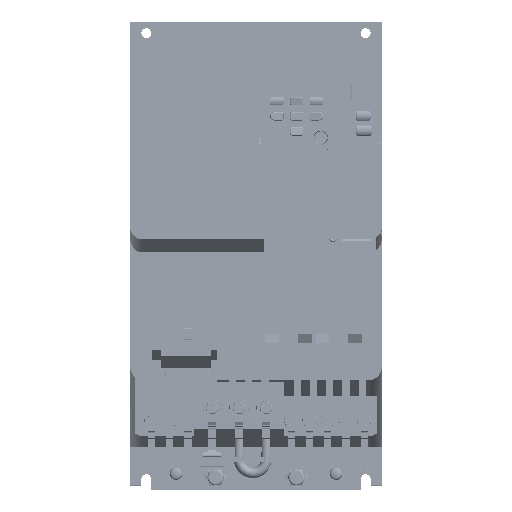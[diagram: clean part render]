
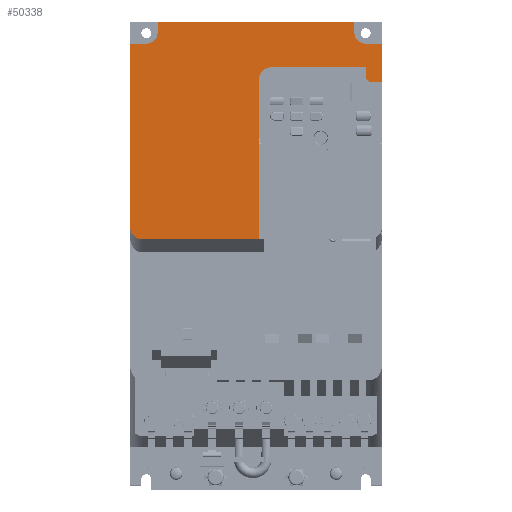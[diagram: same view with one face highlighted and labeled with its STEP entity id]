
A CAD part, top view. The second image highlights one B-rep face of the part: STEP entity #50338.
In plain terms, the highlighted planar face has unit normal (0, 0, 1).
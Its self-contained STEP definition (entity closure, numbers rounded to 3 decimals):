
#3899=CARTESIAN_POINT('',(-63.,146.1,145.));
#3900=DIRECTION('',(0.,0.,1.));
#3901=DIRECTION('',(-1.,0.,0.));
#3902=AXIS2_PLACEMENT_3D('',#3899,#3900,#3901);
#3904=DIRECTION('',(0.,-1.,0.));
#3905=VECTOR('',#3904,101.9);
#3906=CARTESIAN_POINT('',(-70.,248.,145.));
#3907=LINE('',#3906,#3905);
#3908=DIRECTION('',(1.,0.,0.));
#3909=VECTOR('',#3908,9.306);
#3910=CARTESIAN_POINT('',(-70.,248.,145.));
#3911=LINE('',#3910,#3909);
#3912=DIRECTION('',(-0.052,-0.999,0.));
#3913=VECTOR('',#3912,6.323);
#3914=CARTESIAN_POINT('',(-54.371,260.,145.));
#3915=LINE('',#3914,#3913);
#3916=DIRECTION('',(-1.,0.,0.));
#3917=VECTOR('',#3916,108.742);
#3918=CARTESIAN_POINT('',(54.371,260.,145.));
#3919=LINE('',#3918,#3917);
#3920=DIRECTION('',(0.052,-0.999,0.));
#3921=VECTOR('',#3920,6.323);
#3922=CARTESIAN_POINT('',(54.371,260.,145.));
#3923=LINE('',#3922,#3921);
#3924=DIRECTION('',(-1.,0.,0.));
#3925=VECTOR('',#3924,9.306);
#3926=CARTESIAN_POINT('',(70.,248.,145.));
#3927=LINE('',#3926,#3925);
#3928=DIRECTION('',(0.,1.,0.));
#3929=VECTOR('',#3928,21.568);
#3930=CARTESIAN_POINT('',(70.,226.432,145.));
#3931=LINE('',#3930,#3929);
#3932=DIRECTION('',(-0.999,0.052,0.));
#3933=VECTOR('',#3932,6.152);
#3934=CARTESIAN_POINT('',(70.,226.432,145.));
#3935=LINE('',#3934,#3933);
#3936=CARTESIAN_POINT('',(64.,229.5,145.));
#3937=DIRECTION('',(0.,0.,1.));
#3938=DIRECTION('',(-1.,0.,0.));
#3939=AXIS2_PLACEMENT_3D('',#3936,#3937,#3938);
#3941=DIRECTION('',(0.,1.,0.));
#3942=VECTOR('',#3941,5.5);
#3943=CARTESIAN_POINT('',(61.25,229.5,145.));
#3944=LINE('',#3943,#3942);
#3945=DIRECTION('',(-1.,0.,0.));
#3946=VECTOR('',#3945,52.25);
#3947=CARTESIAN_POINT('',(61.25,235.,145.));
#3948=LINE('',#3947,#3946);
#3949=DIRECTION('',(0.,1.,0.));
#3950=VECTOR('',#3949,88.4);
#3951=CARTESIAN_POINT('',(1.5,139.1,145.));
#3952=LINE('',#3951,#3950);
#3953=DIRECTION('',(1.,0.,0.));
#3954=VECTOR('',#3953,64.5);
#3955=CARTESIAN_POINT('',(-63.,139.1,145.));
#3956=LINE('',#3955,#3954);
#11357=CARTESIAN_POINT('',(60.694,254.,145.));
#11358=DIRECTION('',(0.,0.,-1.));
#11359=DIRECTION('',(0.,-1.,0.));
#11360=AXIS2_PLACEMENT_3D('',#11357,#11358,#11359);
#13346=CARTESIAN_POINT('',(-60.694,254.,145.));
#13347=DIRECTION('',(0.,0.,-1.));
#13348=DIRECTION('',(0.999,-0.052,0.));
#13349=AXIS2_PLACEMENT_3D('',#13346,#13347,#13348);
#21485=CARTESIAN_POINT('',(9.,227.5,145.));
#21486=DIRECTION('',(0.,0.,-1.));
#21487=DIRECTION('',(-1.,0.,0.));
#21488=AXIS2_PLACEMENT_3D('',#21485,#21486,#21487);
#35683=CARTESIAN_POINT('',(54.371,260.,145.));
#35684=CARTESIAN_POINT('',(-54.371,260.,145.));
#35685=VERTEX_POINT('',#35683);
#35686=VERTEX_POINT('',#35684);
#35687=CARTESIAN_POINT('',(54.702,253.686,145.));
#35688=VERTEX_POINT('',#35687);
#35689=CARTESIAN_POINT('',(70.,248.,145.));
#35690=CARTESIAN_POINT('',(60.694,248.,145.));
#35691=VERTEX_POINT('',#35689);
#35692=VERTEX_POINT('',#35690);
#35693=CARTESIAN_POINT('',(-70.,248.,145.));
#35694=CARTESIAN_POINT('',(-60.694,248.,145.));
#35695=VERTEX_POINT('',#35693);
#35696=VERTEX_POINT('',#35694);
#35697=CARTESIAN_POINT('',(-54.702,253.686,145.));
#35698=VERTEX_POINT('',#35697);
#35707=CARTESIAN_POINT('',(1.5,139.1,145.));
#35709=VERTEX_POINT('',#35707);
#35711=CARTESIAN_POINT('',(70.,226.432,145.));
#35712=VERTEX_POINT('',#35711);
#35715=CARTESIAN_POINT('',(61.25,235.,145.));
#35717=VERTEX_POINT('',#35715);
#35748=CARTESIAN_POINT('',(9.,235.,145.));
#35750=VERTEX_POINT('',#35748);
#35753=CARTESIAN_POINT('',(1.5,227.5,145.));
#35754=VERTEX_POINT('',#35753);
#35755=CARTESIAN_POINT('',(61.25,229.5,145.));
#35756=CARTESIAN_POINT('',(63.856,226.754,145.));
#35757=VERTEX_POINT('',#35755);
#35758=VERTEX_POINT('',#35756);
#43802=CARTESIAN_POINT('',(-70.,146.1,145.));
#43803=CARTESIAN_POINT('',(-63.,139.1,145.));
#43804=VERTEX_POINT('',#43802);
#43805=VERTEX_POINT('',#43803);
#50300=CARTESIAN_POINT('',(0.,130.,145.));
#50301=DIRECTION('',(0.,0.,1.));
#50302=DIRECTION('',(1.,0.,0.));
#50303=AXIS2_PLACEMENT_3D('',#50300,#50301,#50302);
#50304=PLANE('',#50303);
#50305=ORIENTED_EDGE('',*,*,#50284,.F.);
#50306=ORIENTED_EDGE('',*,*,#49612,.F.);
#50308=ORIENTED_EDGE('',*,*,#50307,.T.);
#50310=ORIENTED_EDGE('',*,*,#50309,.F.);
#50312=ORIENTED_EDGE('',*,*,#50311,.F.);
#50314=ORIENTED_EDGE('',*,*,#50313,.F.);
#50316=ORIENTED_EDGE('',*,*,#50315,.T.);
#50318=ORIENTED_EDGE('',*,*,#50317,.F.);
#50320=ORIENTED_EDGE('',*,*,#50319,.F.);
#50321=ORIENTED_EDGE('',*,*,#47729,.F.);
#50323=ORIENTED_EDGE('',*,*,#50322,.T.);
#50325=ORIENTED_EDGE('',*,*,#50324,.F.);
#50327=ORIENTED_EDGE('',*,*,#50326,.T.);
#50329=ORIENTED_EDGE('',*,*,#50328,.T.);
#50331=ORIENTED_EDGE('',*,*,#50330,.F.);
#50333=ORIENTED_EDGE('',*,*,#50332,.F.);
#50335=ORIENTED_EDGE('',*,*,#50334,.F.);
#50336=EDGE_LOOP('',(#50305,#50306,#50308,#50310,#50312,#50314,#50316,#50318,
#50320,#50321,#50323,#50325,#50327,#50329,#50331,#50333,#50335));
#50337=FACE_OUTER_BOUND('',#50336,.F.);
#3903=CIRCLE('',#3902,7.);
#3940=CIRCLE('',#3939,2.75);
#11361=CIRCLE('',#11360,6.);
#13350=CIRCLE('',#13349,6.);
#21489=CIRCLE('',#21488,7.5);
#47729=EDGE_CURVE('',#35712,#35691,#3931,.T.);
#49612=EDGE_CURVE('',#35695,#43804,#3907,.T.);
#50284=EDGE_CURVE('',#43804,#43805,#3903,.T.);
#50307=EDGE_CURVE('',#35695,#35696,#3911,.T.);
#50309=EDGE_CURVE('',#35698,#35696,#13350,.T.);
#50311=EDGE_CURVE('',#35686,#35698,#3915,.T.);
#50313=EDGE_CURVE('',#35685,#35686,#3919,.T.);
#50315=EDGE_CURVE('',#35685,#35688,#3923,.T.);
#50317=EDGE_CURVE('',#35692,#35688,#11361,.T.);
#50319=EDGE_CURVE('',#35691,#35692,#3927,.T.);
#50322=EDGE_CURVE('',#35712,#35758,#3935,.T.);
#50324=EDGE_CURVE('',#35757,#35758,#3940,.T.);
#50326=EDGE_CURVE('',#35757,#35717,#3944,.T.);
#50328=EDGE_CURVE('',#35717,#35750,#3948,.T.);
#50330=EDGE_CURVE('',#35754,#35750,#21489,.T.);
#50332=EDGE_CURVE('',#35709,#35754,#3952,.T.);
#50334=EDGE_CURVE('',#43805,#35709,#3956,.T.);
#50338=ADVANCED_FACE('',(#50337),#50304,.T.);
